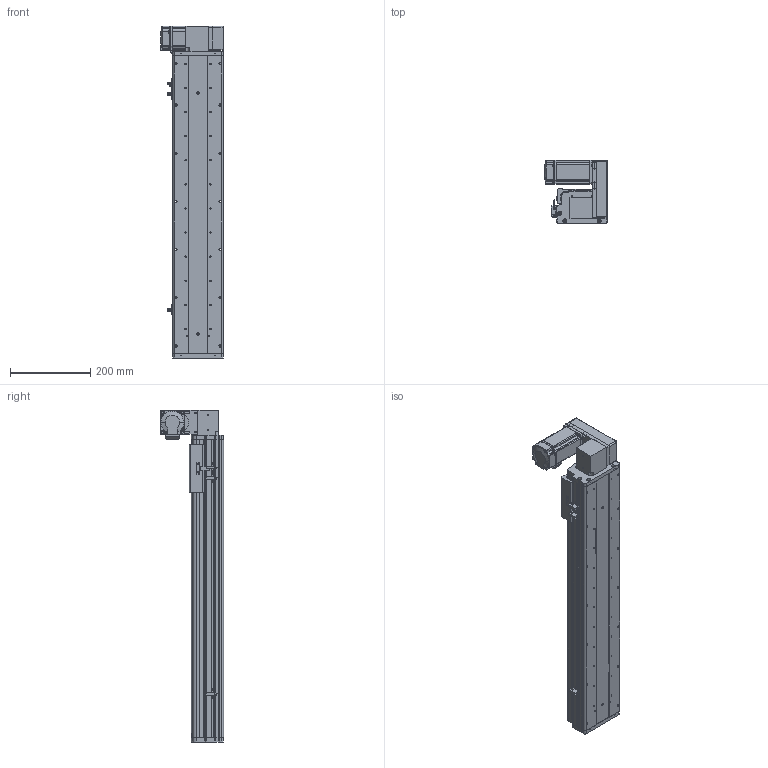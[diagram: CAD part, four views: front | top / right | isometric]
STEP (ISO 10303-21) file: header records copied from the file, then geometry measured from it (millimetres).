
FILE_DESCRIPTION (( 'STEP AP214' ), '1' );
FILE_NAME ('KSD125B-S550-MLU-CM.STEP', '2017-10-21T03:17:16', ( '微软用户' ), ( '微软中国' ), 'SwSTEP 2.0', 'SolidWorks 2014', '' );
FILE_SCHEMA (( 'AUTOMOTIVE_DESIGN' ));
Length unit declared in the file: millimetre
Products named in the file (17): U倰嫖萇EEㄜSX672; KSD125模组同步带-防撞垫1; 前端板-125宽模组同步带; 125模组同步带-尾端板1; KSD125模组同步带-滑动座1; KSD125B-S550-MLU-CM; 悵誘欶奻狟殏; 100宽马达安装板连板上下折丝杆同步带; HTPA30S3M150_A_H6_a佪裝蚚; HTPA30S3M150_A_H6_a萇儂蚚; 100宽马达安装板同步带左; MHMD042G1CA_2_03; KSD125模组550行程同步带-防尘盖; 125模组550行程同步带-底板; KSD125模组同步带-防撞垫2; 覜茼え68遵圉猾敕; U倰嫖萇假蚾璃
Assembly tree (20 placements, depth 2):
  KSD125B-S550-MLU-CM
    KSD125模组同步带-滑动座1
    125模组同步带-尾端板1
    前端板-125宽模组同步带
    KSD125模组同步带-防撞垫1
    U倰嫖萇EEㄜSX672  x3
    U倰嫖萇假蚾璃  x3
    覜茼え68遵圉猾敕
    KSD125模组同步带-防撞垫2
    125模组550行程同步带-底板
    KSD125模组550行程同步带-防尘盖
    MHMD042G1CA_2_03
    100宽马达安装板同步带左
    HTPA30S3M150_A_H6_a萇儂蚚
    HTPA30S3M150_A_H6_a佪裝蚚
    100宽马达安装板连板上下折丝杆同步带
    悵誘欶奻狟殏
Bounding box: 155 x 157.5 x 827 mm (x, y, z)
Volume: 2723389.8 mm3; surface area: 942662.4 mm2
Topology: 19 solids, 22 shells, 2253 faces, 6523 edges, 4310 vertices
Faces by surface type: cylinder 1404, plane 722, cone 105, bspline 22
Entity records: 79901 total; most frequent: CARTESIAN_POINT 15801, DIRECTION 12428, ORIENTED_EDGE 11566, EDGE_CURVE 5861, AXIS2_PLACEMENT_3D 4797, VERTEX_POINT 3902, LINE 2834, VECTOR 2834
